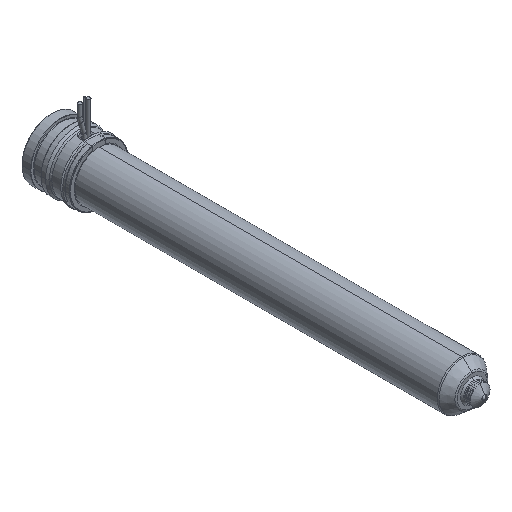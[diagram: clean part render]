
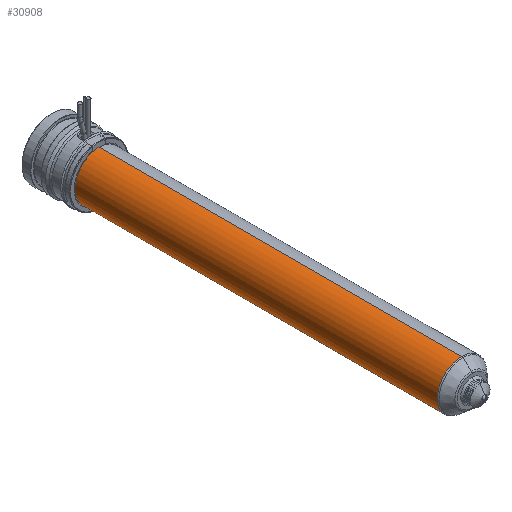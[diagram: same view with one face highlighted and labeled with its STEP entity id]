
A CAD part, isometric view. The second image highlights one B-rep face of the part: STEP entity #30908.
In plain terms, the highlighted cylindrical face has radius 12 mm (diameter 24 mm), a partial arc.
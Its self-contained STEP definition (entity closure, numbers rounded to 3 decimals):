
#30393=CARTESIAN_POINT('',(0.,-24.,0.));
#30394=DIRECTION('',(0.,1.,0.));
#30395=DIRECTION('',(0.,0.,-1.));
#30396=AXIS2_PLACEMENT_3D('',#30393,#30394,#30395);
#30401=DIRECTION('',(0.,1.,0.));
#30402=VECTOR('',#30401,179.736);
#30403=CARTESIAN_POINT('',(0.,-203.736,12.));
#30404=LINE('',#30403,#30402);
#30416=DIRECTION('',(0.,1.,0.));
#30417=VECTOR('',#30416,179.736);
#30418=CARTESIAN_POINT('',(0.,-203.736,-12.));
#30419=LINE('',#30418,#30417);
#30447=CARTESIAN_POINT('',(0.,-203.736,0.));
#30448=DIRECTION('',(0.,-1.,0.));
#30449=DIRECTION('',(0.,0.,1.));
#30450=AXIS2_PLACEMENT_3D('',#30447,#30448,#30449);
#30777=CARTESIAN_POINT('',(0.,-203.736,12.));
#30778=CARTESIAN_POINT('',(0.,-24.,12.));
#30779=VERTEX_POINT('',#30777);
#30780=VERTEX_POINT('',#30778);
#30781=CARTESIAN_POINT('',(0.,-203.736,-12.));
#30782=CARTESIAN_POINT('',(0.,-24.,-12.));
#30783=VERTEX_POINT('',#30781);
#30784=VERTEX_POINT('',#30782);
#30894=CARTESIAN_POINT('',(0.,-10.2,0.));
#30895=DIRECTION('',(0.,-1.,0.));
#30896=DIRECTION('',(0.,0.,1.));
#30897=AXIS2_PLACEMENT_3D('',#30894,#30895,#30896);
#30898=CYLINDRICAL_SURFACE('',#30897,12.);
#30900=ORIENTED_EDGE('',*,*,#30899,.F.);
#30902=ORIENTED_EDGE('',*,*,#30901,.T.);
#30904=ORIENTED_EDGE('',*,*,#30903,.T.);
#30905=ORIENTED_EDGE('',*,*,#30887,.T.);
#30906=EDGE_LOOP('',(#30900,#30902,#30904,#30905));
#30907=FACE_OUTER_BOUND('',#30906,.F.);
#30908=ADVANCED_FACE('',(#30907),#30898,.T.);
#30397=CIRCLE('',#30396,12.);
#30451=CIRCLE('',#30450,12.);
#30887=EDGE_CURVE('',#30784,#30780,#30397,.T.);
#30899=EDGE_CURVE('',#30779,#30780,#30404,.T.);
#30901=EDGE_CURVE('',#30779,#30783,#30451,.T.);
#30903=EDGE_CURVE('',#30783,#30784,#30419,.T.);
